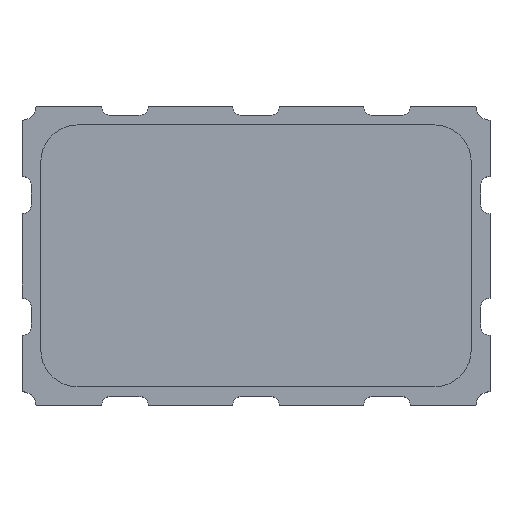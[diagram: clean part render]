
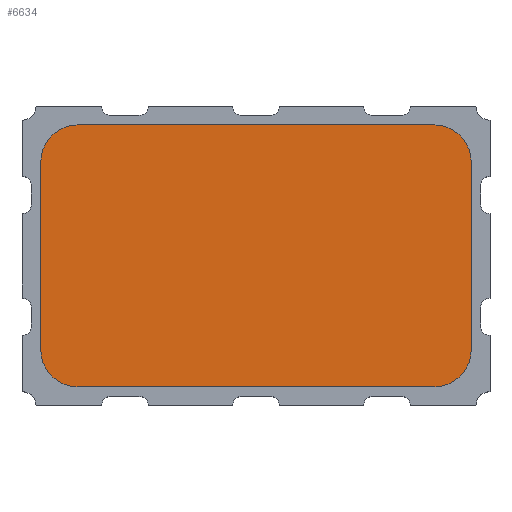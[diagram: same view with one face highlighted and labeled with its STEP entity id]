
A CAD part, top view. The second image highlights one B-rep face of the part: STEP entity #6634.
In plain terms, the highlighted planar face has unit normal (0, 0, 1).
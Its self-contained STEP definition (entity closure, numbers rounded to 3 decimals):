
#5955 = CYLINDRICAL_SURFACE('',#5956,0.4);
#5956 = AXIS2_PLACEMENT_3D('',#5957,#5958,#5959);
#5957 = CARTESIAN_POINT('',(-1.9,-1.,1.));
#5958 = DIRECTION('',(-0.,-0.,-1.));
#5959 = DIRECTION('',(1.,0.,0.));
#5983 = PLANE('',#5984);
#5984 = AXIS2_PLACEMENT_3D('',#5985,#5986,#5987);
#5985 = CARTESIAN_POINT('',(-2.3,-1.,1.));
#5986 = DIRECTION('',(-1.,0.,0.));
#5987 = DIRECTION('',(0.,1.,0.));
#6012 = CYLINDRICAL_SURFACE('',#6013,0.4);
#6013 = AXIS2_PLACEMENT_3D('',#6014,#6015,#6016);
#6014 = CARTESIAN_POINT('',(-1.9,1.,1.));
#6015 = DIRECTION('',(-0.,-0.,-1.));
#6016 = DIRECTION('',(1.,0.,0.));
#6040 = PLANE('',#6041);
#6041 = AXIS2_PLACEMENT_3D('',#6042,#6043,#6044);
#6042 = CARTESIAN_POINT('',(-1.9,1.4,1.));
#6043 = DIRECTION('',(0.,1.,0.));
#6044 = DIRECTION('',(1.,0.,0.));
#6069 = CYLINDRICAL_SURFACE('',#6070,0.4);
#6070 = AXIS2_PLACEMENT_3D('',#6071,#6072,#6073);
#6071 = CARTESIAN_POINT('',(1.9,1.,1.));
#6072 = DIRECTION('',(-0.,-0.,-1.));
#6073 = DIRECTION('',(1.,0.,0.));
#6097 = PLANE('',#6098);
#6098 = AXIS2_PLACEMENT_3D('',#6099,#6100,#6101);
#6099 = CARTESIAN_POINT('',(2.3,1.,1.));
#6100 = DIRECTION('',(1.,0.,0.));
#6101 = DIRECTION('',(0.,-1.,0.));
#6126 = CYLINDRICAL_SURFACE('',#6127,0.4);
#6127 = AXIS2_PLACEMENT_3D('',#6128,#6129,#6130);
#6128 = CARTESIAN_POINT('',(1.9,-1.,1.));
#6129 = DIRECTION('',(-0.,-0.,-1.));
#6130 = DIRECTION('',(1.,0.,0.));
#6152 = PLANE('',#6153);
#6153 = AXIS2_PLACEMENT_3D('',#6154,#6155,#6156);
#6154 = CARTESIAN_POINT('',(1.9,-1.4,1.));
#6155 = DIRECTION('',(0.,-1.,0.));
#6156 = DIRECTION('',(-1.,0.,0.));
#6238 = VERTEX_POINT('',#6239);
#6239 = CARTESIAN_POINT('',(-2.3,-1.,1.1));
#6260 = EDGE_CURVE('',#6238,#6261,#6263,.T.);
#6261 = VERTEX_POINT('',#6262);
#6262 = CARTESIAN_POINT('',(-1.9,-1.4,1.1));
#6263 = SURFACE_CURVE('',#6264,(#6269,#6276),.PCURVE_S1.);
#6264 = CIRCLE('',#6265,0.4);
#6265 = AXIS2_PLACEMENT_3D('',#6266,#6267,#6268);
#6266 = CARTESIAN_POINT('',(-1.9,-1.,1.1));
#6267 = DIRECTION('',(0.,0.,1.));
#6268 = DIRECTION('',(1.,0.,0.));
#6269 = PCURVE('',#5955,#6270);
#6270 = DEFINITIONAL_REPRESENTATION('',(#6271),#6275);
#6271 = LINE('',#6272,#6273);
#6272 = CARTESIAN_POINT('',(-0.,-0.1));
#6273 = VECTOR('',#6274,1.);
#6274 = DIRECTION('',(-1.,0.));
#6275 = ( GEOMETRIC_REPRESENTATION_CONTEXT(2) 
PARAMETRIC_REPRESENTATION_CONTEXT() REPRESENTATION_CONTEXT('2D SPACE',''
  ) );
#6276 = PCURVE('',#6277,#6282);
#6277 = PLANE('',#6278);
#6278 = AXIS2_PLACEMENT_3D('',#6279,#6280,#6281);
#6279 = CARTESIAN_POINT('',(0.,0.,1.1)
  );
#6280 = DIRECTION('',(0.,0.,1.));
#6281 = DIRECTION('',(1.,0.,0.));
#6282 = DEFINITIONAL_REPRESENTATION('',(#6283),#6287);
#6283 = CIRCLE('',#6284,0.4);
#6284 = AXIS2_PLACEMENT_2D('',#6285,#6286);
#6285 = CARTESIAN_POINT('',(-1.9,-1.));
#6286 = DIRECTION('',(1.,0.));
#6287 = ( GEOMETRIC_REPRESENTATION_CONTEXT(2) 
PARAMETRIC_REPRESENTATION_CONTEXT() REPRESENTATION_CONTEXT('2D SPACE',''
  ) );
#6315 = VERTEX_POINT('',#6316);
#6316 = CARTESIAN_POINT('',(1.9,-1.4,1.1));
#6337 = EDGE_CURVE('',#6315,#6261,#6338,.T.);
#6338 = SURFACE_CURVE('',#6339,(#6343,#6350),.PCURVE_S1.);
#6339 = LINE('',#6340,#6341);
#6340 = CARTESIAN_POINT('',(1.9,-1.4,1.1));
#6341 = VECTOR('',#6342,1.);
#6342 = DIRECTION('',(-1.,0.,0.));
#6343 = PCURVE('',#6152,#6344);
#6344 = DEFINITIONAL_REPRESENTATION('',(#6345),#6349);
#6345 = LINE('',#6346,#6347);
#6346 = CARTESIAN_POINT('',(0.,-0.1));
#6347 = VECTOR('',#6348,1.);
#6348 = DIRECTION('',(1.,0.));
#6349 = ( GEOMETRIC_REPRESENTATION_CONTEXT(2) 
PARAMETRIC_REPRESENTATION_CONTEXT() REPRESENTATION_CONTEXT('2D SPACE',''
  ) );
#6350 = PCURVE('',#6277,#6351);
#6351 = DEFINITIONAL_REPRESENTATION('',(#6352),#6356);
#6352 = LINE('',#6353,#6354);
#6353 = CARTESIAN_POINT('',(1.9,-1.4));
#6354 = VECTOR('',#6355,1.);
#6355 = DIRECTION('',(-1.,0.));
#6356 = ( GEOMETRIC_REPRESENTATION_CONTEXT(2) 
PARAMETRIC_REPRESENTATION_CONTEXT() REPRESENTATION_CONTEXT('2D SPACE',''
  ) );
#6364 = EDGE_CURVE('',#6315,#6365,#6367,.T.);
#6365 = VERTEX_POINT('',#6366);
#6366 = CARTESIAN_POINT('',(2.3,-1.,1.1));
#6367 = SURFACE_CURVE('',#6368,(#6373,#6380),.PCURVE_S1.);
#6368 = CIRCLE('',#6369,0.4);
#6369 = AXIS2_PLACEMENT_3D('',#6370,#6371,#6372);
#6370 = CARTESIAN_POINT('',(1.9,-1.,1.1));
#6371 = DIRECTION('',(0.,0.,1.));
#6372 = DIRECTION('',(1.,0.,0.));
#6373 = PCURVE('',#6126,#6374);
#6374 = DEFINITIONAL_REPRESENTATION('',(#6375),#6379);
#6375 = LINE('',#6376,#6377);
#6376 = CARTESIAN_POINT('',(-0.,-0.1));
#6377 = VECTOR('',#6378,1.);
#6378 = DIRECTION('',(-1.,0.));
#6379 = ( GEOMETRIC_REPRESENTATION_CONTEXT(2) 
PARAMETRIC_REPRESENTATION_CONTEXT() REPRESENTATION_CONTEXT('2D SPACE',''
  ) );
#6380 = PCURVE('',#6277,#6381);
#6381 = DEFINITIONAL_REPRESENTATION('',(#6382),#6386);
#6382 = CIRCLE('',#6383,0.4);
#6383 = AXIS2_PLACEMENT_2D('',#6384,#6385);
#6384 = CARTESIAN_POINT('',(1.9,-1.));
#6385 = DIRECTION('',(1.,0.));
#6386 = ( GEOMETRIC_REPRESENTATION_CONTEXT(2) 
PARAMETRIC_REPRESENTATION_CONTEXT() REPRESENTATION_CONTEXT('2D SPACE',''
  ) );
#6414 = VERTEX_POINT('',#6415);
#6415 = CARTESIAN_POINT('',(2.3,1.,1.1));
#6436 = EDGE_CURVE('',#6414,#6365,#6437,.T.);
#6437 = SURFACE_CURVE('',#6438,(#6442,#6449),.PCURVE_S1.);
#6438 = LINE('',#6439,#6440);
#6439 = CARTESIAN_POINT('',(2.3,1.,1.1));
#6440 = VECTOR('',#6441,1.);
#6441 = DIRECTION('',(0.,-1.,0.));
#6442 = PCURVE('',#6097,#6443);
#6443 = DEFINITIONAL_REPRESENTATION('',(#6444),#6448);
#6444 = LINE('',#6445,#6446);
#6445 = CARTESIAN_POINT('',(0.,-0.1));
#6446 = VECTOR('',#6447,1.);
#6447 = DIRECTION('',(1.,0.));
#6448 = ( GEOMETRIC_REPRESENTATION_CONTEXT(2) 
PARAMETRIC_REPRESENTATION_CONTEXT() REPRESENTATION_CONTEXT('2D SPACE',''
  ) );
#6449 = PCURVE('',#6277,#6450);
#6450 = DEFINITIONAL_REPRESENTATION('',(#6451),#6455);
#6451 = LINE('',#6452,#6453);
#6452 = CARTESIAN_POINT('',(2.3,1.));
#6453 = VECTOR('',#6454,1.);
#6454 = DIRECTION('',(0.,-1.));
#6455 = ( GEOMETRIC_REPRESENTATION_CONTEXT(2) 
PARAMETRIC_REPRESENTATION_CONTEXT() REPRESENTATION_CONTEXT('2D SPACE',''
  ) );
#6463 = EDGE_CURVE('',#6414,#6464,#6466,.T.);
#6464 = VERTEX_POINT('',#6465);
#6465 = CARTESIAN_POINT('',(1.9,1.4,1.1));
#6466 = SURFACE_CURVE('',#6467,(#6472,#6479),.PCURVE_S1.);
#6467 = CIRCLE('',#6468,0.4);
#6468 = AXIS2_PLACEMENT_3D('',#6469,#6470,#6471);
#6469 = CARTESIAN_POINT('',(1.9,1.,1.1));
#6470 = DIRECTION('',(0.,0.,1.));
#6471 = DIRECTION('',(1.,0.,0.));
#6472 = PCURVE('',#6069,#6473);
#6473 = DEFINITIONAL_REPRESENTATION('',(#6474),#6478);
#6474 = LINE('',#6475,#6476);
#6475 = CARTESIAN_POINT('',(-0.,-0.1));
#6476 = VECTOR('',#6477,1.);
#6477 = DIRECTION('',(-1.,0.));
#6478 = ( GEOMETRIC_REPRESENTATION_CONTEXT(2) 
PARAMETRIC_REPRESENTATION_CONTEXT() REPRESENTATION_CONTEXT('2D SPACE',''
  ) );
#6479 = PCURVE('',#6277,#6480);
#6480 = DEFINITIONAL_REPRESENTATION('',(#6481),#6485);
#6481 = CIRCLE('',#6482,0.4);
#6482 = AXIS2_PLACEMENT_2D('',#6483,#6484);
#6483 = CARTESIAN_POINT('',(1.9,1.));
#6484 = DIRECTION('',(1.,0.));
#6485 = ( GEOMETRIC_REPRESENTATION_CONTEXT(2) 
PARAMETRIC_REPRESENTATION_CONTEXT() REPRESENTATION_CONTEXT('2D SPACE',''
  ) );
#6513 = VERTEX_POINT('',#6514);
#6514 = CARTESIAN_POINT('',(-1.9,1.4,1.1));
#6535 = EDGE_CURVE('',#6513,#6464,#6536,.T.);
#6536 = SURFACE_CURVE('',#6537,(#6541,#6548),.PCURVE_S1.);
#6537 = LINE('',#6538,#6539);
#6538 = CARTESIAN_POINT('',(-1.9,1.4,1.1));
#6539 = VECTOR('',#6540,1.);
#6540 = DIRECTION('',(1.,0.,0.));
#6541 = PCURVE('',#6040,#6542);
#6542 = DEFINITIONAL_REPRESENTATION('',(#6543),#6547);
#6543 = LINE('',#6544,#6545);
#6544 = CARTESIAN_POINT('',(0.,-0.1));
#6545 = VECTOR('',#6546,1.);
#6546 = DIRECTION('',(1.,0.));
#6547 = ( GEOMETRIC_REPRESENTATION_CONTEXT(2) 
PARAMETRIC_REPRESENTATION_CONTEXT() REPRESENTATION_CONTEXT('2D SPACE',''
  ) );
#6548 = PCURVE('',#6277,#6549);
#6549 = DEFINITIONAL_REPRESENTATION('',(#6550),#6554);
#6550 = LINE('',#6551,#6552);
#6551 = CARTESIAN_POINT('',(-1.9,1.4));
#6552 = VECTOR('',#6553,1.);
#6553 = DIRECTION('',(1.,0.));
#6554 = ( GEOMETRIC_REPRESENTATION_CONTEXT(2) 
PARAMETRIC_REPRESENTATION_CONTEXT() REPRESENTATION_CONTEXT('2D SPACE',''
  ) );
#6562 = EDGE_CURVE('',#6513,#6563,#6565,.T.);
#6563 = VERTEX_POINT('',#6564);
#6564 = CARTESIAN_POINT('',(-2.3,1.,1.1));
#6565 = SURFACE_CURVE('',#6566,(#6571,#6578),.PCURVE_S1.);
#6566 = CIRCLE('',#6567,0.4);
#6567 = AXIS2_PLACEMENT_3D('',#6568,#6569,#6570);
#6568 = CARTESIAN_POINT('',(-1.9,1.,1.1));
#6569 = DIRECTION('',(0.,0.,1.));
#6570 = DIRECTION('',(1.,0.,0.));
#6571 = PCURVE('',#6012,#6572);
#6572 = DEFINITIONAL_REPRESENTATION('',(#6573),#6577);
#6573 = LINE('',#6574,#6575);
#6574 = CARTESIAN_POINT('',(-0.,-0.1));
#6575 = VECTOR('',#6576,1.);
#6576 = DIRECTION('',(-1.,0.));
#6577 = ( GEOMETRIC_REPRESENTATION_CONTEXT(2) 
PARAMETRIC_REPRESENTATION_CONTEXT() REPRESENTATION_CONTEXT('2D SPACE',''
  ) );
#6578 = PCURVE('',#6277,#6579);
#6579 = DEFINITIONAL_REPRESENTATION('',(#6580),#6584);
#6580 = CIRCLE('',#6581,0.4);
#6581 = AXIS2_PLACEMENT_2D('',#6582,#6583);
#6582 = CARTESIAN_POINT('',(-1.9,1.));
#6583 = DIRECTION('',(1.,0.));
#6584 = ( GEOMETRIC_REPRESENTATION_CONTEXT(2) 
PARAMETRIC_REPRESENTATION_CONTEXT() REPRESENTATION_CONTEXT('2D SPACE',''
  ) );
#6612 = EDGE_CURVE('',#6238,#6563,#6613,.T.);
#6613 = SURFACE_CURVE('',#6614,(#6618,#6625),.PCURVE_S1.);
#6614 = LINE('',#6615,#6616);
#6615 = CARTESIAN_POINT('',(-2.3,-1.,1.1));
#6616 = VECTOR('',#6617,1.);
#6617 = DIRECTION('',(0.,1.,0.));
#6618 = PCURVE('',#5983,#6619);
#6619 = DEFINITIONAL_REPRESENTATION('',(#6620),#6624);
#6620 = LINE('',#6621,#6622);
#6621 = CARTESIAN_POINT('',(0.,-0.1));
#6622 = VECTOR('',#6623,1.);
#6623 = DIRECTION('',(1.,0.));
#6624 = ( GEOMETRIC_REPRESENTATION_CONTEXT(2) 
PARAMETRIC_REPRESENTATION_CONTEXT() REPRESENTATION_CONTEXT('2D SPACE',''
  ) );
#6625 = PCURVE('',#6277,#6626);
#6626 = DEFINITIONAL_REPRESENTATION('',(#6627),#6631);
#6627 = LINE('',#6628,#6629);
#6628 = CARTESIAN_POINT('',(-2.3,-1.));
#6629 = VECTOR('',#6630,1.);
#6630 = DIRECTION('',(0.,1.));
#6631 = ( GEOMETRIC_REPRESENTATION_CONTEXT(2) 
PARAMETRIC_REPRESENTATION_CONTEXT() REPRESENTATION_CONTEXT('2D SPACE',''
  ) );
#6634 = ADVANCED_FACE('',(#6635),#6277,.T.);
#6635 = FACE_BOUND('',#6636,.F.);
#6636 = EDGE_LOOP('',(#6637,#6638,#6639,#6640,#6641,#6642,#6643,#6644));
#6637 = ORIENTED_EDGE('',*,*,#6612,.T.);
#6638 = ORIENTED_EDGE('',*,*,#6562,.F.);
#6639 = ORIENTED_EDGE('',*,*,#6535,.T.);
#6640 = ORIENTED_EDGE('',*,*,#6463,.F.);
#6641 = ORIENTED_EDGE('',*,*,#6436,.T.);
#6642 = ORIENTED_EDGE('',*,*,#6364,.F.);
#6643 = ORIENTED_EDGE('',*,*,#6337,.T.);
#6644 = ORIENTED_EDGE('',*,*,#6260,.F.);
